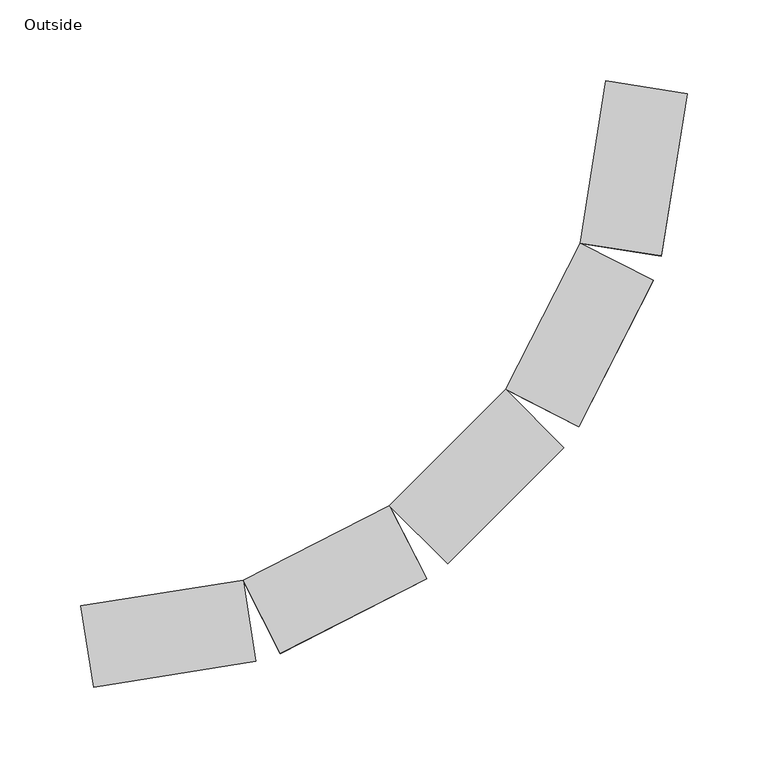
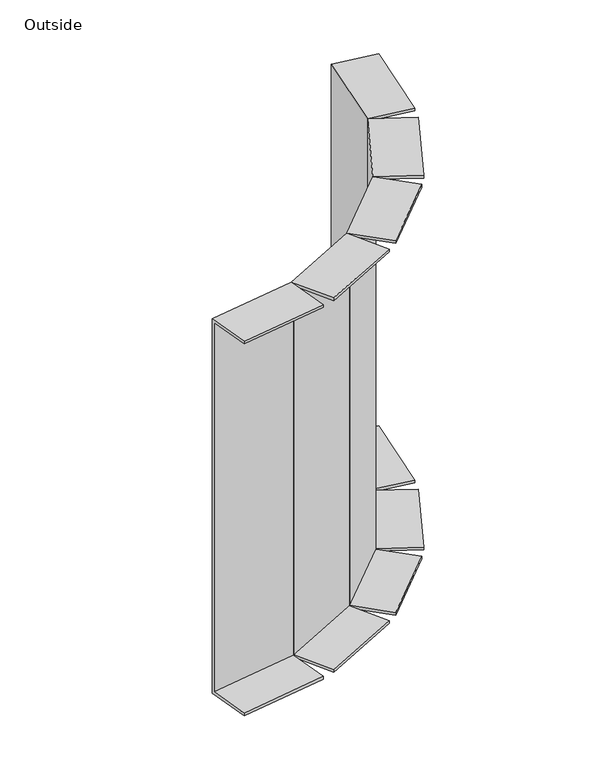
"""IFC4 building model written with IfcOpenShell, lengths in millimetres: cable carrier fitting geometry, Bend-Vertical-Cablofil-Wire_Mesh_Cable_Tray-Cablobend : Outside."""

from ifc_helpers import new_model, si_unit, frame, origin, place, context, project, spatial, polyline, outline, extrude, source, transform, mapped, element, save


def outside_56ba3ab0(model_context):
    return source(origin(), model_context, "Body", "SweptSolid", [
        extrude(outline(polyline([(-50.8, 0.0), (0.0, 0.0), (0.0, -457.2), (-50.8, -457.2), (-50.8, -454.025), (-3.175, -454.025), (-3.175, -3.175), (-50.8, -3.175), (-50.8, 0.0)])), frame((-159.2612254, 87.4191764, 228.6), z_axis=(0.7071067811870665, 0.7071067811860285, 0.0), x_axis=(-0.7071067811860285, 0.7071067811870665, 0.0)), (0.0, 0.0, 1.0), 101.6),
        extrude(outline(polyline([(-50.8, 0.0), (0.0, 0.0), (0.0, -457.2), (-50.8, -457.2), (-50.8, -454.025), (-3.175, -454.025), (-3.175, -3.175), (-50.8, -3.175), (-50.8, 0.0)])), frame((-350.1366237, 25.4, 228.6), z_axis=(0.9876883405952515, 0.15643446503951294, 0.0), x_axis=(-0.15643446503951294, 0.9876883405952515, 0.0)), (0.0, 0.0, 1.0), 101.6),
        extrude(outline(polyline([(-50.8, 0.0), (0.0, 0.0), (0.0, -457.2), (-50.8, -457.2), (-50.8, -454.025), (-3.1749999, -454.025), (-3.1749999, -3.175), (-50.8, -3.175), (-50.8, 0.0)])), frame((-41.2937416, 249.7874882, 228.6), z_axis=(0.15643446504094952, 0.9876883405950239, 0.0), x_axis=(-0.9876883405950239, 0.15643446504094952, 0.0)), (0.0, 0.0, 1.0), 101.6),
        extrude(outline(polyline([(-50.7999999, 0.0), (0.0, 0.0), (0.0, -457.2), (-50.7999999, -457.2), (-50.7999999, -454.025), (-3.175, -454.025), (-3.175, -3.175), (-50.7999999, -3.175), (-50.7999999, 0.0)])), frame((-249.7874882, 41.2937416, 228.6), z_axis=(0.8910065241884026, 0.45399049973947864, 0.0), x_axis=(-0.45399049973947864, 0.8910065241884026, 0.0)), (0.0, 0.0, 1.0), 101.6),
        extrude(outline(polyline([(-50.8, 0.0), (0.0, 0.0), (0.0, -457.2), (-50.8, -457.2), (-50.8, -454.025), (-3.175, -454.025), (-3.175, -3.175), (-50.8, -3.175), (-50.8, 0.0)])), frame((-87.4191764, 159.2612254, 228.6), z_axis=(0.4539904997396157, 0.8910065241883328, 0.0), x_axis=(-0.8910065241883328, 0.4539904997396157, 0.0)), (0.0, 0.0, 1.0), 101.6),
    ])


if __name__ == "__main__":
    model = new_model("IFC4")
    model_context = context("Model", 3, world=origin())
    ifc_project = project(units=[si_unit("LENGTHUNIT", "METRE", prefix="MILLI")], contexts=[model_context])
    site = spatial("IfcSite", under=ifc_project)
    building = spatial("IfcBuilding", under=site)
    placement = place(None, origin())
    outside_shape = outside_56ba3ab0(model_context)
    element("IfcCableCarrierFitting", 1, ObjectType="Bend-Vertical-Cablofil-Wire_Mesh_Cable_Tray-Cablobend : Outside", at=placement, inside=building, context=model_context, shape_type="MappedRepresentation", body=[
        mapped(outside_shape, transform((0.0, 0.0, 0.0), x_axis=(1.0, 0.0, 0.0), y_axis=(0.0, 1.0, 0.0), z_axis=(0.0, 0.0, 1.0))),
    ])
    save(model, "model.ifc")
